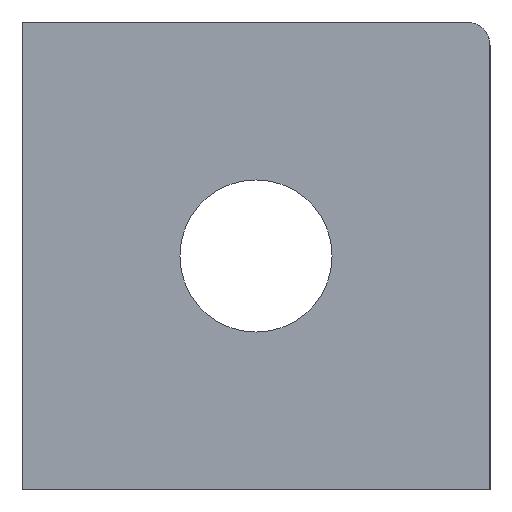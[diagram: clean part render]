
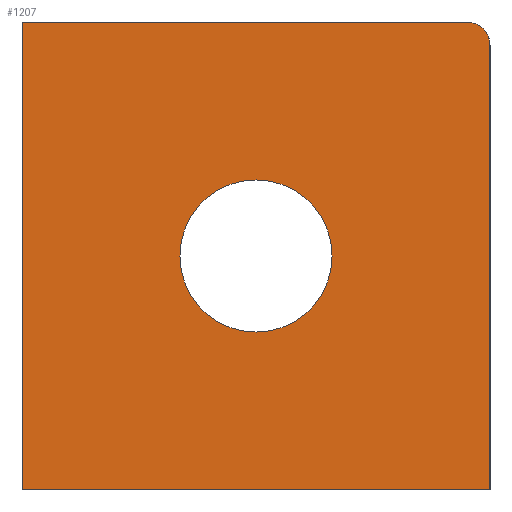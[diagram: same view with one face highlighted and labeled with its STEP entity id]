
A CAD part, left-side view. The second image highlights one B-rep face of the part: STEP entity #1207.
In plain terms, the highlighted planar face has unit normal (-1, 0, 0).
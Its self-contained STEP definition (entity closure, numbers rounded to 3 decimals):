
#23 = EDGE_CURVE ( 'NONE', #1007, #1546, #1560, .T. ) ;
#101 = VECTOR ( 'NONE', #245, 1000. ) ;
#116 = CARTESIAN_POINT ( 'NONE',  ( 0., 1., 19. ) ) ;
#121 = DIRECTION ( 'NONE',  ( 0., 0., -1. ) ) ;
#138 = DIRECTION ( 'NONE',  ( 0., 0., -1. ) ) ;
#204 = ORIENTED_EDGE ( 'NONE', *, *, #23, .F. ) ;
#221 = ORIENTED_EDGE ( 'NONE', *, *, #467, .T. ) ;
#245 = DIRECTION ( 'NONE',  ( 0., -1., 0. ) ) ;
#246 = VERTEX_POINT ( 'NONE', #1782 ) ;
#253 = VERTEX_POINT ( 'NONE', #1183 ) ;
#281 = CIRCLE ( 'NONE', #1327, 3.25 ) ;
#286 = VERTEX_POINT ( 'NONE', #1675 ) ;
#324 = CIRCLE ( 'NONE', #946, 3.25 ) ;
#364 = FACE_OUTER_BOUND ( 'NONE', #505, .T. ) ;
#467 = EDGE_CURVE ( 'NONE', #246, #1546, #734, .T. ) ;
#487 = ORIENTED_EDGE ( 'NONE', *, *, #813, .T. ) ;
#490 = CARTESIAN_POINT ( 'NONE',  ( 0., 10., 10. ) ) ;
#505 = EDGE_LOOP ( 'NONE', ( #204, #487, #832, #1471, #221 ) ) ;
#520 = AXIS2_PLACEMENT_3D ( 'NONE', #116, #869, #706 ) ;
#574 = EDGE_CURVE ( 'NONE', #253, #246, #759, .T. ) ;
#589 = DIRECTION ( 'NONE',  ( 0., 0., -1. ) ) ;
#643 = CARTESIAN_POINT ( 'NONE',  ( 0., 10., 6.75 ) ) ;
#649 = EDGE_CURVE ( 'NONE', #253, #286, #1380, .T. ) ;
#651 = CARTESIAN_POINT ( 'NONE',  ( 0., 0., 20. ) ) ;
#706 = DIRECTION ( 'NONE',  ( 0., 0., -1. ) ) ;
#734 = LINE ( 'NONE', #1382, #101 ) ;
#759 = LINE ( 'NONE', #1290, #1390 ) ;
#813 = EDGE_CURVE ( 'NONE', #1007, #286, #860, .T. ) ;
#832 = ORIENTED_EDGE ( 'NONE', *, *, #649, .F. ) ;
#860 = CIRCLE ( 'NONE', #520, 1. ) ;
#869 = DIRECTION ( 'NONE',  ( -1., 0., 0. ) ) ;
#905 = VERTEX_POINT ( 'NONE', #1845 ) ;
#917 = CARTESIAN_POINT ( 'NONE',  ( 0., 0., 0. ) ) ;
#944 = VECTOR ( 'NONE', #1204, 1000. ) ;
#946 = AXIS2_PLACEMENT_3D ( 'NONE', #1609, #1396, #589 ) ;
#956 = CARTESIAN_POINT ( 'NONE',  ( 0., 0., 19. ) ) ;
#958 = EDGE_CURVE ( 'NONE', #1645, #905, #281, .T. ) ;
#991 = AXIS2_PLACEMENT_3D ( 'NONE', #1398, #1852, #121 ) ;
#1007 = VERTEX_POINT ( 'NONE', #956 ) ;
#1089 = CARTESIAN_POINT ( 'NONE',  ( 0., 0., 20. ) ) ;
#1117 = ORIENTED_EDGE ( 'NONE', *, *, #1663, .T. ) ;
#1133 = ORIENTED_EDGE ( 'NONE', *, *, #958, .T. ) ;
#1183 = CARTESIAN_POINT ( 'NONE',  ( 0., 20., 20. ) ) ;
#1204 = DIRECTION ( 'NONE',  ( 0., 0., -1. ) ) ;
#1207 = ADVANCED_FACE ( 'NONE', ( #1547, #364 ), #1270, .F. ) ;
#1270 = PLANE ( 'NONE',  #991 ) ;
#1290 = CARTESIAN_POINT ( 'NONE',  ( 0., 20., 20. ) ) ;
#1327 = AXIS2_PLACEMENT_3D ( 'NONE', #490, #1633, #1786 ) ;
#1356 = DIRECTION ( 'NONE',  ( 0., -1., 0. ) ) ;
#1372 = VECTOR ( 'NONE', #1356, 1000. ) ;
#1380 = LINE ( 'NONE', #651, #1372 ) ;
#1382 = CARTESIAN_POINT ( 'NONE',  ( 0., 0., 0. ) ) ;
#1390 = VECTOR ( 'NONE', #138, 1000. ) ;
#1396 = DIRECTION ( 'NONE',  ( 1., 0., 0. ) ) ;
#1398 = CARTESIAN_POINT ( 'NONE',  ( 0., 0., 20. ) ) ;
#1471 = ORIENTED_EDGE ( 'NONE', *, *, #574, .T. ) ;
#1531 = EDGE_LOOP ( 'NONE', ( #1133, #1117 ) ) ;
#1546 = VERTEX_POINT ( 'NONE', #917 ) ;
#1547 = FACE_BOUND ( 'NONE', #1531, .T. ) ;
#1560 = LINE ( 'NONE', #1089, #944 ) ;
#1609 = CARTESIAN_POINT ( 'NONE',  ( 0., 10., 10. ) ) ;
#1633 = DIRECTION ( 'NONE',  ( 1., 0., 0. ) ) ;
#1645 = VERTEX_POINT ( 'NONE', #643 ) ;
#1663 = EDGE_CURVE ( 'NONE', #905, #1645, #324, .T. ) ;
#1675 = CARTESIAN_POINT ( 'NONE',  ( 0., 1., 20. ) ) ;
#1782 = CARTESIAN_POINT ( 'NONE',  ( 0., 20., 0. ) ) ;
#1786 = DIRECTION ( 'NONE',  ( 0., 0., -1. ) ) ;
#1845 = CARTESIAN_POINT ( 'NONE',  ( 0., 10., 13.25 ) ) ;
#1852 = DIRECTION ( 'NONE',  ( 1., 0., 0. ) ) ;
